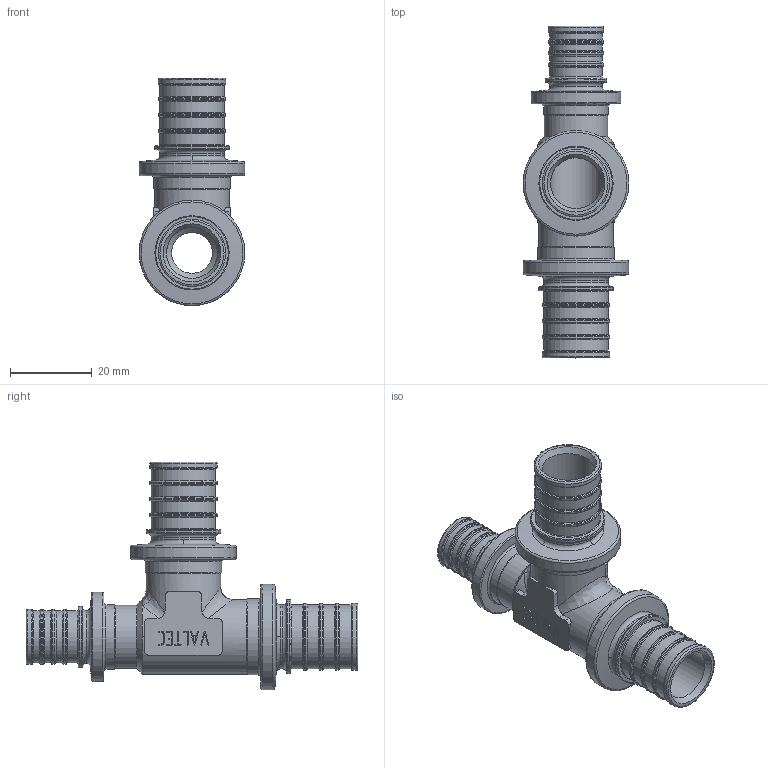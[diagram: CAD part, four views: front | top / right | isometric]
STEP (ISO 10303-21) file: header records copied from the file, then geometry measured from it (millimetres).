
FILE_DESCRIPTION(('STEP AP203'), '1');
FILE_NAME('覆.752241.007 - VTm.431.G.202016 秮鍣. 縺鳱', '', ('UNSPECIFIED'), ('UNSPECIFIED'), 'C3D Converter', 'C3D Toolkit', '');
FILE_SCHEMA(('CONFIG_CONTROL_DESIGN'));
Length unit declared in the file: millimetre
Products named in the file (1): ВР.752241.007
Bounding box: 25.9 x 81.4 x 55.75 mm (x, y, z)
Volume: 14787.6 mm3; surface area: 12627 mm2
Topology: 1 solids, 1 shells, 409 faces, 1063 edges, 677 vertices
Faces by surface type: extrusion 142, plane 123, torus 71, cylinder 58, cone 11, bspline 4
Full cylindrical faces by diameter (mm): 10 x1, 12.5 x2, 12.8 x4, 13.5 x4, 15 x1, 15.5 x1, 15.7 x10, 15.8 x1, 16.5 x8, 18.2 x2, 18.3 x2, 18.7 x2, 21.9 x1, 25.9 x2
Entity records: 16238 total; most frequent: CARTESIAN_POINT 3938, ORIENTED_EDGE 1880, DIRECTION 1470, EDGE_CURVE 940, VERTEX_POINT 675, VECTOR 582, EDGE_LOOP 553, B_SPLINE_CURVE_WITH_KNOTS 458
